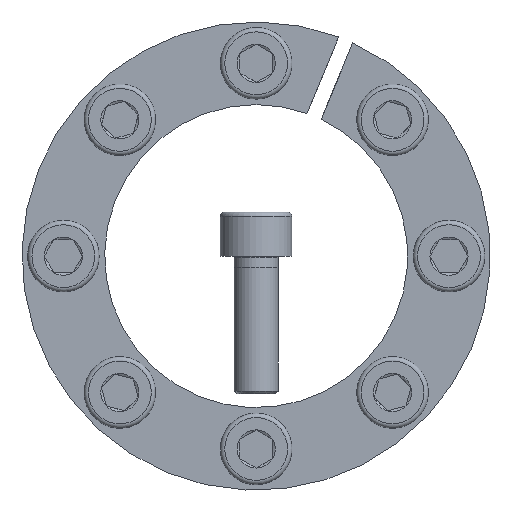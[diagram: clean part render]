
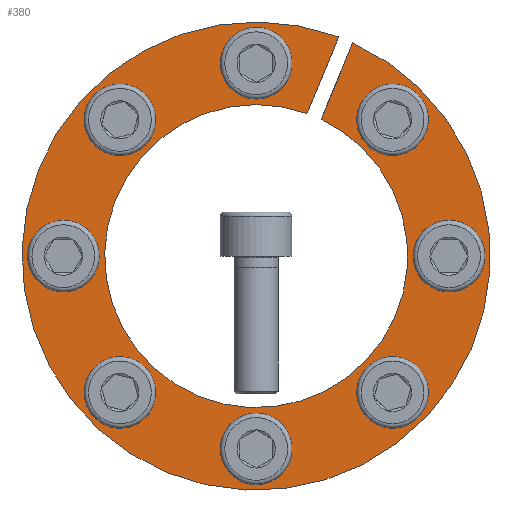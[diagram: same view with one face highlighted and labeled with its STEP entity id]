
A CAD part, front view. The second image highlights one B-rep face of the part: STEP entity #380.
In plain terms, the highlighted planar face has unit normal (0, -1, 0).
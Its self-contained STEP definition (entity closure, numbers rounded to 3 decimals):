
#380 = ADVANCED_FACE( '', ( #583, #584, #585, #586, #587, #588, #589, #590, #591 ), #592, .F. );
#583 = FACE_BOUND( '', #747, .T. );
#584 = FACE_BOUND( '', #748, .T. );
#585 = FACE_BOUND( '', #749, .T. );
#586 = FACE_BOUND( '', #750, .T. );
#587 = FACE_OUTER_BOUND( '', #751, .T. );
#588 = FACE_BOUND( '', #752, .T. );
#589 = FACE_BOUND( '', #753, .T. );
#590 = FACE_BOUND( '', #754, .T. );
#591 = FACE_BOUND( '', #755, .T. );
#592 = PLANE( '', #756 );
#747 = EDGE_LOOP( '', ( #960 ) );
#748 = EDGE_LOOP( '', ( #961 ) );
#749 = EDGE_LOOP( '', ( #962 ) );
#750 = EDGE_LOOP( '', ( #963 ) );
#751 = EDGE_LOOP( '', ( #964, #965, #966, #967 ) );
#752 = EDGE_LOOP( '', ( #968 ) );
#753 = EDGE_LOOP( '', ( #969 ) );
#754 = EDGE_LOOP( '', ( #970 ) );
#755 = EDGE_LOOP( '', ( #971 ) );
#756 = AXIS2_PLACEMENT_3D( '', #972, #973, #974 );
#960 = ORIENTED_EDGE( '', *, *, #1294, .T. );
#961 = ORIENTED_EDGE( '', *, *, #1295, .T. );
#962 = ORIENTED_EDGE( '', *, *, #1296, .T. );
#963 = ORIENTED_EDGE( '', *, *, #1297, .T. );
#964 = ORIENTED_EDGE( '', *, *, #1292, .F. );
#965 = ORIENTED_EDGE( '', *, *, #1288, .F. );
#966 = ORIENTED_EDGE( '', *, *, #1298, .T. );
#967 = ORIENTED_EDGE( '', *, *, #1299, .F. );
#968 = ORIENTED_EDGE( '', *, *, #1300, .T. );
#969 = ORIENTED_EDGE( '', *, *, #1301, .T. );
#970 = ORIENTED_EDGE( '', *, *, #1302, .T. );
#971 = ORIENTED_EDGE( '', *, *, #1303, .T. );
#972 = CARTESIAN_POINT( '', ( 0., 0., 42.5 ) );
#973 = DIRECTION( '', ( 0., 1., 0. ) );
#974 = DIRECTION( '', ( 0., 0., 1. ) );
#1288 = EDGE_CURVE( '', #1423, #1425, #1426, .T. );
#1292 = EDGE_CURVE( '', #1425, #1432, #1433, .T. );
#1294 = EDGE_CURVE( '', #1435, #1435, #1436, .T. );
#1295 = EDGE_CURVE( '', #1437, #1437, #1438, .T. );
#1296 = EDGE_CURVE( '', #1439, #1439, #1440, .T. );
#1297 = EDGE_CURVE( '', #1441, #1441, #1442, .T. );
#1298 = EDGE_CURVE( '', #1423, #1443, #1444, .T. );
#1299 = EDGE_CURVE( '', #1432, #1443, #1445, .T. );
#1300 = EDGE_CURVE( '', #1446, #1446, #1447, .T. );
#1301 = EDGE_CURVE( '', #1448, #1448, #1449, .T. );
#1302 = EDGE_CURVE( '', #1450, #1450, #1451, .T. );
#1303 = EDGE_CURVE( '', #1452, #1452, #1453, .T. );
#1423 = VERTEX_POINT( '', #1551 );
#1425 = VERTEX_POINT( '', #1554 );
#1426 = LINE( '', #1555, #1556 );
#1432 = VERTEX_POINT( '', #1564 );
#1433 = CIRCLE( '', #1565, 27.5 );
#1435 = VERTEX_POINT( '', #1568 );
#1436 = CIRCLE( '', #1569, 4. );
#1437 = VERTEX_POINT( '', #1570 );
#1438 = CIRCLE( '', #1571, 4. );
#1439 = VERTEX_POINT( '', #1572 );
#1440 = CIRCLE( '', #1573, 4. );
#1441 = VERTEX_POINT( '', #1574 );
#1442 = CIRCLE( '', #1575, 4. );
#1443 = VERTEX_POINT( '', #1576 );
#1444 = CIRCLE( '', #1577, 42.5 );
#1445 = LINE( '', #1578, #1579 );
#1446 = VERTEX_POINT( '', #1580 );
#1447 = CIRCLE( '', #1581, 4. );
#1448 = VERTEX_POINT( '', #1582 );
#1449 = CIRCLE( '', #1583, 4. );
#1450 = VERTEX_POINT( '', #1584 );
#1451 = CIRCLE( '', #1585, 4. );
#1452 = VERTEX_POINT( '', #1586 );
#1453 = CIRCLE( '', #1587, 4. );
#1551 = CARTESIAN_POINT( '', ( 14.968, 0., 39.777 ) );
#1554 = CARTESIAN_POINT( '', ( 9.223, 0., 25.907 ) );
#1555 = CARTESIAN_POINT( '', ( 14.977, 0., 39.798 ) );
#1556 = VECTOR( '', #1674, 1000. );
#1564 = CARTESIAN_POINT( '', ( 11.798, 0., 24.841 ) );
#1565 = AXIS2_PLACEMENT_3D( '', #1680, #1681, #1682 );
#1568 = CARTESIAN_POINT( '', ( -35., 0., 4. ) );
#1569 = AXIS2_PLACEMENT_3D( '', #1684, #1685, #1686 );
#1570 = CARTESIAN_POINT( '', ( -4., 0., -35. ) );
#1571 = AXIS2_PLACEMENT_3D( '', #1687, #1688, #1689 );
#1572 = CARTESIAN_POINT( '', ( 35., 0., -4. ) );
#1573 = AXIS2_PLACEMENT_3D( '', #1690, #1691, #1692 );
#1574 = CARTESIAN_POINT( '', ( 4., 0., 35. ) );
#1575 = AXIS2_PLACEMENT_3D( '', #1693, #1694, #1695 );
#1576 = CARTESIAN_POINT( '', ( 17.543, 0., 38.711 ) );
#1577 = AXIS2_PLACEMENT_3D( '', #1696, #1697, #1698 );
#1578 = CARTESIAN_POINT( '', ( 11.798, 0., 24.841 ) );
#1579 = VECTOR( '', #1699, 1000. );
#1580 = CARTESIAN_POINT( '', ( 27.577, 0., 21.92 ) );
#1581 = AXIS2_PLACEMENT_3D( '', #1700, #1701, #1702 );
#1582 = CARTESIAN_POINT( '', ( 21.92, 0., -27.577 ) );
#1583 = AXIS2_PLACEMENT_3D( '', #1703, #1704, #1705 );
#1584 = CARTESIAN_POINT( '', ( -27.577, 0., -21.92 ) );
#1585 = AXIS2_PLACEMENT_3D( '', #1706, #1707, #1708 );
#1586 = CARTESIAN_POINT( '', ( -21.92, 0., 27.577 ) );
#1587 = AXIS2_PLACEMENT_3D( '', #1709, #1710, #1711 );
#1674 = DIRECTION( '', ( -0.383, 0., -0.924 ) );
#1680 = CARTESIAN_POINT( '', ( 0., 0., 0. ) );
#1681 = DIRECTION( '', ( 0., -1., 0. ) );
#1682 = DIRECTION( '', ( 0., 0., -1. ) );
#1684 = CARTESIAN_POINT( '', ( -35., 0., 0. ) );
#1685 = DIRECTION( '', ( 0., 1., 0. ) );
#1686 = DIRECTION( '', ( 0., 0., 1. ) );
#1687 = CARTESIAN_POINT( '', ( 0., 0., -35. ) );
#1688 = DIRECTION( '', ( 0., 1., 0. ) );
#1689 = DIRECTION( '', ( -1., 0., 0. ) );
#1690 = CARTESIAN_POINT( '', ( 35., 0., 0. ) );
#1691 = DIRECTION( '', ( 0., 1., 0. ) );
#1692 = DIRECTION( '', ( 0., 0., -1. ) );
#1693 = CARTESIAN_POINT( '', ( 0., 0., 35. ) );
#1694 = DIRECTION( '', ( 0., 1., 0. ) );
#1695 = DIRECTION( '', ( 1., 0., 0. ) );
#1696 = CARTESIAN_POINT( '', ( 0., 0., 0. ) );
#1697 = DIRECTION( '', ( 0., -1., 0. ) );
#1698 = DIRECTION( '', ( 0., 0., -1. ) );
#1699 = DIRECTION( '', ( 0.383, 0., 0.924 ) );
#1700 = CARTESIAN_POINT( '', ( 24.749, 0., 24.749 ) );
#1701 = DIRECTION( '', ( 0., 1., 0. ) );
#1702 = DIRECTION( '', ( 0.707, 0., -0.707 ) );
#1703 = CARTESIAN_POINT( '', ( 24.749, 0., -24.749 ) );
#1704 = DIRECTION( '', ( 0., 1., 0. ) );
#1705 = DIRECTION( '', ( -0.707, 0., -0.707 ) );
#1706 = CARTESIAN_POINT( '', ( -24.749, 0., -24.749 ) );
#1707 = DIRECTION( '', ( 0., 1., 0. ) );
#1708 = DIRECTION( '', ( -0.707, 0., 0.707 ) );
#1709 = CARTESIAN_POINT( '', ( -24.749, 0., 24.749 ) );
#1710 = DIRECTION( '', ( 0., 1., 0. ) );
#1711 = DIRECTION( '', ( 0.707, 0., 0.707 ) );
